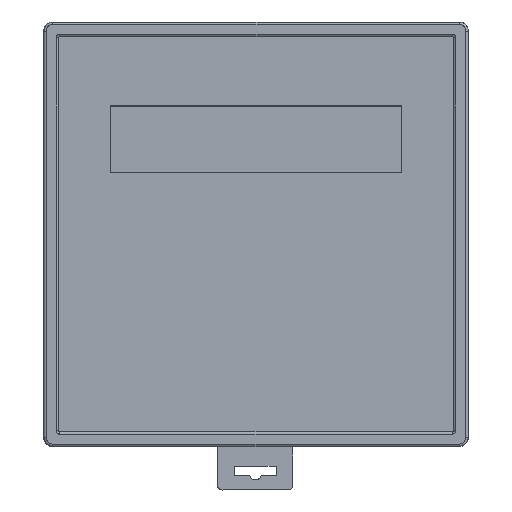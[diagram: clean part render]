
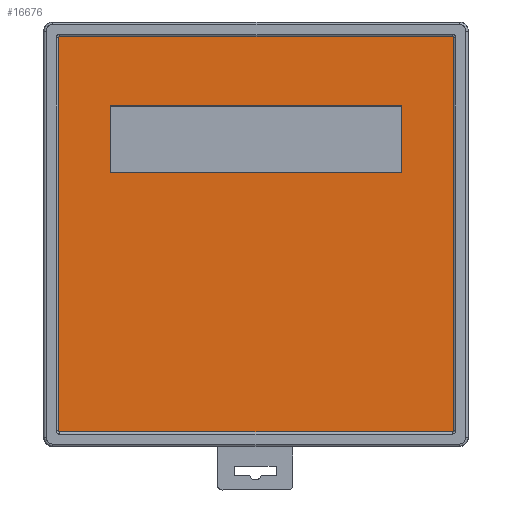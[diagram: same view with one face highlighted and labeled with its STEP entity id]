
A CAD part, top view. The second image highlights one B-rep face of the part: STEP entity #16676.
In plain terms, the highlighted planar face has unit normal (0, 0, 1).
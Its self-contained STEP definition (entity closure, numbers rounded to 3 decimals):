
#308 = DIRECTION ( 'NONE',  ( 0., 0., 1. ) ) ;
#998 = CARTESIAN_POINT ( 'NONE',  ( 3.6, 13.297, 62.6 ) ) ;
#1234 = FACE_OUTER_BOUND ( 'NONE', #41107, .T. ) ;
#1473 = ORIENTED_EDGE ( 'NONE', *, *, #37050, .T. ) ;
#1971 = LINE ( 'NONE', #44187, #34175 ) ;
#2558 = VERTEX_POINT ( 'NONE', #24564 ) ;
#2969 = VERTEX_POINT ( 'NONE', #43582 ) ;
#3137 = VECTOR ( 'NONE', #35534, 1000. ) ;
#3146 = CARTESIAN_POINT ( 'NONE',  ( 15., 71.697, 62.6 ) ) ;
#3372 = ORIENTED_EDGE ( 'NONE', *, *, #39990, .T. ) ;
#4203 = EDGE_CURVE ( 'NONE', #8421, #29143, #24289, .T. ) ;
#6143 = CARTESIAN_POINT ( 'NONE',  ( 3.6, 13.297, 62.6 ) ) ;
#7968 = CIRCLE ( 'NONE', #16867, 0.3 ) ;
#8421 = VERTEX_POINT ( 'NONE', #59503 ) ;
#11070 = DIRECTION ( 'NONE',  ( -1., 0., 0. ) ) ;
#11188 = LINE ( 'NONE', #58366, #20960 ) ;
#11803 = ORIENTED_EDGE ( 'NONE', *, *, #11916, .T. ) ;
#11916 = EDGE_CURVE ( 'NONE', #29143, #44834, #69018, .T. ) ;
#12083 = DIRECTION ( 'NONE',  ( 0., 1., 0. ) ) ;
#12397 = DIRECTION ( 'NONE',  ( 0., 1., 0. ) ) ;
#12402 = FACE_BOUND ( 'NONE', #60295, .T. ) ;
#12648 = VERTEX_POINT ( 'NONE', #29546 ) ;
#13019 = ORIENTED_EDGE ( 'NONE', *, *, #26075, .F. ) ;
#13810 = CARTESIAN_POINT ( 'NONE',  ( 92.4, 102.397, 62.6 ) ) ;
#14134 = DIRECTION ( 'NONE',  ( 0., 0., 1. ) ) ;
#16008 = ORIENTED_EDGE ( 'NONE', *, *, #43028, .F. ) ;
#16676 = ADVANCED_FACE ( 'NONE', ( #1234, #12402 ), #65813, .T. ) ;
#16867 = AXIS2_PLACEMENT_3D ( 'NONE', #998, #308, #64887 ) ;
#17747 = AXIS2_PLACEMENT_3D ( 'NONE', #56260, #29713, #30052 ) ;
#18923 = ORIENTED_EDGE ( 'NONE', *, *, #58747, .T. ) ;
#19016 = CARTESIAN_POINT ( 'NONE',  ( 92.4, 13.297, 62.6 ) ) ;
#19473 = CARTESIAN_POINT ( 'NONE',  ( 3.3, 102.097, 62.6 ) ) ;
#19552 = ORIENTED_EDGE ( 'NONE', *, *, #4203, .T. ) ;
#20211 = DIRECTION ( 'NONE',  ( 0., -1., 0. ) ) ;
#20960 = VECTOR ( 'NONE', #32491, 1000. ) ;
#22873 = ORIENTED_EDGE ( 'NONE', *, *, #23064, .T. ) ;
#23064 = EDGE_CURVE ( 'NONE', #39944, #2969, #11188, .T. ) ;
#23451 = CARTESIAN_POINT ( 'NONE',  ( 81., 71.697, 62.6 ) ) ;
#23733 = VERTEX_POINT ( 'NONE', #34060 ) ;
#24289 = LINE ( 'NONE', #13810, #32884 ) ;
#24564 = CARTESIAN_POINT ( 'NONE',  ( 81., 86.697, 62.6 ) ) ;
#24984 = CARTESIAN_POINT ( 'NONE',  ( 3.3, 13.297, 62.6 ) ) ;
#25453 = LINE ( 'NONE', #35584, #32698 ) ;
#26075 = EDGE_CURVE ( 'NONE', #45656, #50306, #61102, .T. ) ;
#27613 = VERTEX_POINT ( 'NONE', #44335 ) ;
#28795 = ORIENTED_EDGE ( 'NONE', *, *, #36058, .F. ) ;
#29143 = VERTEX_POINT ( 'NONE', #46956 ) ;
#29546 = CARTESIAN_POINT ( 'NONE',  ( 92.7, 13.297, 62.6 ) ) ;
#29713 = DIRECTION ( 'NONE',  ( 0., 0., 1. ) ) ;
#29845 = DIRECTION ( 'NONE',  ( 0., -1., 0. ) ) ;
#30052 = DIRECTION ( 'NONE',  ( 0., -1., 0. ) ) ;
#31622 = VERTEX_POINT ( 'NONE', #24984 ) ;
#31642 = CIRCLE ( 'NONE', #52822, 0.3 ) ;
#32044 = CARTESIAN_POINT ( 'NONE',  ( 3.3, 102.097, 62.6 ) ) ;
#32491 = DIRECTION ( 'NONE',  ( 1., 0., 0. ) ) ;
#32698 = VECTOR ( 'NONE', #20211, 1000. ) ;
#32884 = VECTOR ( 'NONE', #54681, 1000. ) ;
#33701 = DIRECTION ( 'NONE',  ( 0., -1., 0. ) ) ;
#34060 = CARTESIAN_POINT ( 'NONE',  ( 92.7, 102.097, 62.6 ) ) ;
#34175 = VECTOR ( 'NONE', #12083, 1000. ) ;
#34561 = DIRECTION ( 'NONE',  ( 1., 0., 0. ) ) ;
#34731 = ORIENTED_EDGE ( 'NONE', *, *, #54137, .T. ) ;
#35534 = DIRECTION ( 'NONE',  ( 0., -1., 0. ) ) ;
#35584 = CARTESIAN_POINT ( 'NONE',  ( 15., 71.697, 62.6 ) ) ;
#35940 = AXIS2_PLACEMENT_3D ( 'NONE', #6143, #39278, #33701 ) ;
#36058 = EDGE_CURVE ( 'NONE', #2558, #27613, #58930, .T. ) ;
#37050 = EDGE_CURVE ( 'NONE', #12648, #23733, #1971, .T. ) ;
#37256 = CARTESIAN_POINT ( 'NONE',  ( 15., 86.697, 62.6 ) ) ;
#39278 = DIRECTION ( 'NONE',  ( 0., 0., 1. ) ) ;
#39386 = LINE ( 'NONE', #19473, #3137 ) ;
#39944 = VERTEX_POINT ( 'NONE', #65921 ) ;
#39990 = EDGE_CURVE ( 'NONE', #44834, #31622, #39386, .T. ) ;
#41107 = EDGE_LOOP ( 'NONE', ( #46074, #22873, #18923, #1473, #34731, #19552, #11803, #3372 ) ) ;
#43028 = EDGE_CURVE ( 'NONE', #50306, #2558, #48024, .T. ) ;
#43457 = CARTESIAN_POINT ( 'NONE',  ( 81., 86.697, 62.6 ) ) ;
#43582 = CARTESIAN_POINT ( 'NONE',  ( 92.4, 12.997, 62.6 ) ) ;
#44187 = CARTESIAN_POINT ( 'NONE',  ( 92.7, 13.297, 62.6 ) ) ;
#44335 = CARTESIAN_POINT ( 'NONE',  ( 15., 86.697, 62.6 ) ) ;
#44666 = CARTESIAN_POINT ( 'NONE',  ( 81., 71.697, 62.6 ) ) ;
#44834 = VERTEX_POINT ( 'NONE', #32044 ) ;
#45656 = VERTEX_POINT ( 'NONE', #3146 ) ;
#46074 = ORIENTED_EDGE ( 'NONE', *, *, #68481, .T. ) ;
#46956 = CARTESIAN_POINT ( 'NONE',  ( 3.6, 102.397, 62.6 ) ) ;
#47419 = VECTOR ( 'NONE', #12397, 1000. ) ;
#48024 = LINE ( 'NONE', #43457, #47419 ) ;
#49677 = VECTOR ( 'NONE', #11070, 1000. ) ;
#50306 = VERTEX_POINT ( 'NONE', #23451 ) ;
#51093 = DIRECTION ( 'NONE',  ( 0., -1., 0. ) ) ;
#51938 = AXIS2_PLACEMENT_3D ( 'NONE', #19016, #14134, #29845 ) ;
#52822 = AXIS2_PLACEMENT_3D ( 'NONE', #62645, #62983, #51093 ) ;
#54137 = EDGE_CURVE ( 'NONE', #23733, #8421, #31642, .T. ) ;
#54681 = DIRECTION ( 'NONE',  ( -1., 0., 0. ) ) ;
#56260 = CARTESIAN_POINT ( 'NONE',  ( 3.6, 102.097, 62.6 ) ) ;
#58366 = CARTESIAN_POINT ( 'NONE',  ( 3.6, 12.997, 62.6 ) ) ;
#58684 = CIRCLE ( 'NONE', #51938, 0.3 ) ;
#58747 = EDGE_CURVE ( 'NONE', #2969, #12648, #58684, .T. ) ;
#58930 = LINE ( 'NONE', #37256, #49677 ) ;
#59503 = CARTESIAN_POINT ( 'NONE',  ( 92.4, 102.397, 62.6 ) ) ;
#60295 = EDGE_LOOP ( 'NONE', ( #68921, #28795, #16008, #13019 ) ) ;
#60980 = EDGE_CURVE ( 'NONE', #27613, #45656, #25453, .T. ) ;
#61102 = LINE ( 'NONE', #44666, #65775 ) ;
#62645 = CARTESIAN_POINT ( 'NONE',  ( 92.4, 102.097, 62.6 ) ) ;
#62983 = DIRECTION ( 'NONE',  ( 0., 0., 1. ) ) ;
#64887 = DIRECTION ( 'NONE',  ( 0., -1., 0. ) ) ;
#65775 = VECTOR ( 'NONE', #34561, 1000. ) ;
#65813 = PLANE ( 'NONE',  #35940 ) ;
#65921 = CARTESIAN_POINT ( 'NONE',  ( 3.6, 12.997, 62.6 ) ) ;
#68481 = EDGE_CURVE ( 'NONE', #31622, #39944, #7968, .T. ) ;
#68921 = ORIENTED_EDGE ( 'NONE', *, *, #60980, .F. ) ;
#69018 = CIRCLE ( 'NONE', #17747, 0.3 ) ;
